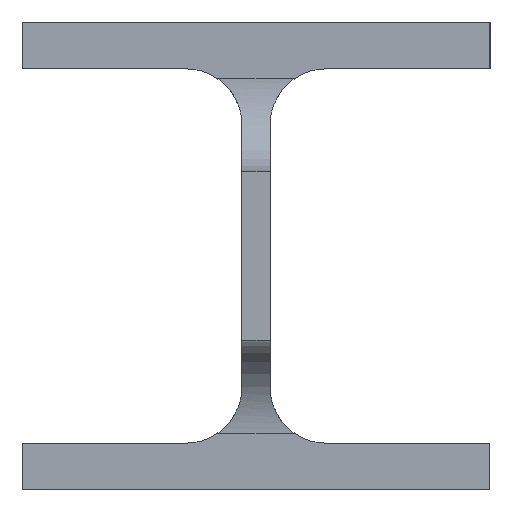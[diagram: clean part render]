
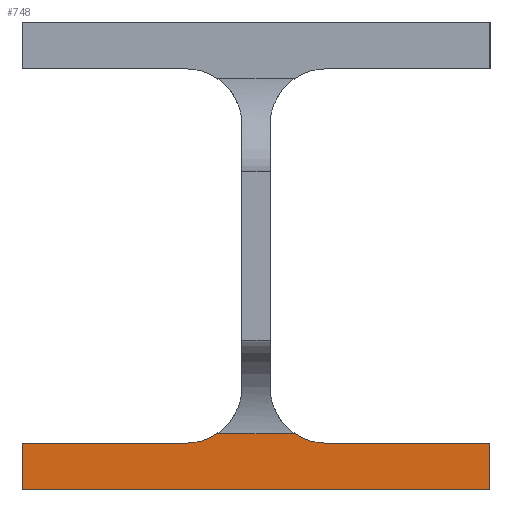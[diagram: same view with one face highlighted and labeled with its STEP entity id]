
A CAD part, left-side view. The second image highlights one B-rep face of the part: STEP entity #748.
In plain terms, the highlighted planar face has unit normal (-1, 0, 0).
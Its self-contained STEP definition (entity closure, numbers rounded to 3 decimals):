
#19 = VECTOR ( 'NONE', #3678, 1000. ) ;
#33 = DIRECTION ( 'NONE',  ( 0., 0., -1. ) ) ;
#73 = CARTESIAN_POINT ( 'NONE',  ( 7052., 2300., 4080. ) ) ;
#113 = CARTESIAN_POINT ( 'NONE',  ( 7052., 2365., 4090. ) ) ;
#243 = EDGE_CURVE ( 'NONE', #1096, #3258, #2074, .T. ) ;
#260 = VECTOR ( 'NONE', #3815, 1000. ) ;
#315 = ORIENTED_EDGE ( 'NONE', *, *, #243, .T. ) ;
#317 = DIRECTION ( 'NONE',  ( 1., 0., 0. ) ) ;
#320 = VERTEX_POINT ( 'NONE', #1494 ) ;
#353 = ORIENTED_EDGE ( 'NONE', *, *, #1870, .T. ) ;
#375 = LINE ( 'NONE', #73, #1260 ) ;
#388 = VECTOR ( 'NONE', #1973, 1000. ) ;
#407 = LINE ( 'NONE', #453, #1003 ) ;
#426 = VERTEX_POINT ( 'NONE', #1148 ) ;
#453 = CARTESIAN_POINT ( 'NONE',  ( 7052., 2400., 4080. ) ) ;
#496 = ORIENTED_EDGE ( 'NONE', *, *, #3018, .T. ) ;
#594 = FACE_OUTER_BOUND ( 'NONE', #3672, .T. ) ;
#625 = CARTESIAN_POINT ( 'NONE',  ( 7052., 2335., 4102. ) ) ;
#698 = EDGE_CURVE ( 'NONE', #426, #1096, #3491, .T. ) ;
#748 = ADVANCED_FACE ( 'NONE', ( #594 ), #3834, .T. ) ;
#802 = CARTESIAN_POINT ( 'NONE',  ( 7052., 2365., 4102. ) ) ;
#807 = CARTESIAN_POINT ( 'NONE',  ( 7052., 2300., 4090. ) ) ;
#892 = CARTESIAN_POINT ( 'NONE',  ( 7052., 2341.633, 4092. ) ) ;
#913 = LINE ( 'NONE', #2707, #1382 ) ;
#968 = LINE ( 'NONE', #2187, #19 ) ;
#1003 = VECTOR ( 'NONE', #2792, 1000. ) ;
#1035 = DIRECTION ( 'NONE',  ( 1., 0., 0. ) ) ;
#1096 = VERTEX_POINT ( 'NONE', #3548 ) ;
#1148 = CARTESIAN_POINT ( 'NONE',  ( 7052., 2300., 4090. ) ) ;
#1160 = VERTEX_POINT ( 'NONE', #1378 ) ;
#1260 = VECTOR ( 'NONE', #2424, 1000. ) ;
#1378 = CARTESIAN_POINT ( 'NONE',  ( 7052., 2300., 4080. ) ) ;
#1382 = VECTOR ( 'NONE', #33, 1000. ) ;
#1459 = VERTEX_POINT ( 'NONE', #1557 ) ;
#1494 = CARTESIAN_POINT ( 'NONE',  ( 7052., 2400., 4090. ) ) ;
#1503 = DIRECTION ( 'NONE',  ( 0., 0., 1. ) ) ;
#1557 = CARTESIAN_POINT ( 'NONE',  ( 7052., 2358.367, 4092. ) ) ;
#1617 = ORIENTED_EDGE ( 'NONE', *, *, #1843, .T. ) ;
#1634 = AXIS2_PLACEMENT_3D ( 'NONE', #2942, #3853, #2053 ) ;
#1708 = VERTEX_POINT ( 'NONE', #113 ) ;
#1843 = EDGE_CURVE ( 'NONE', #1160, #426, #375, .T. ) ;
#1870 = EDGE_CURVE ( 'NONE', #320, #3732, #913, .T. ) ;
#1973 = DIRECTION ( 'NONE',  ( 0., 1., 0. ) ) ;
#2011 = CARTESIAN_POINT ( 'NONE',  ( 7052., 1900., 4092. ) ) ;
#2015 = ORIENTED_EDGE ( 'NONE', *, *, #2679, .T. ) ;
#2053 = DIRECTION ( 'NONE',  ( 0., 0., 1. ) ) ;
#2074 = CIRCLE ( 'NONE', #3257, 12. ) ;
#2187 = CARTESIAN_POINT ( 'NONE',  ( 7052., 2365., 4090. ) ) ;
#2424 = DIRECTION ( 'NONE',  ( 0., 0., 1. ) ) ;
#2679 = EDGE_CURVE ( 'NONE', #1708, #320, #968, .T. ) ;
#2698 = AXIS2_PLACEMENT_3D ( 'NONE', #802, #1035, #3434 ) ;
#2707 = CARTESIAN_POINT ( 'NONE',  ( 7052., 2400., 4090. ) ) ;
#2769 = CIRCLE ( 'NONE', #2698, 12. ) ;
#2792 = DIRECTION ( 'NONE',  ( 0., -1., 0. ) ) ;
#2794 = EDGE_CURVE ( 'NONE', #1459, #1708, #2769, .T. ) ;
#2803 = ORIENTED_EDGE ( 'NONE', *, *, #698, .T. ) ;
#2809 = ORIENTED_EDGE ( 'NONE', *, *, #2821, .T. ) ;
#2821 = EDGE_CURVE ( 'NONE', #3258, #1459, #2920, .T. ) ;
#2920 = LINE ( 'NONE', #2011, #388 ) ;
#2942 = CARTESIAN_POINT ( 'NONE',  ( 7052., 1900., 4090. ) ) ;
#3018 = EDGE_CURVE ( 'NONE', #3732, #1160, #407, .T. ) ;
#3103 = CARTESIAN_POINT ( 'NONE',  ( 7052., 2400., 4080. ) ) ;
#3257 = AXIS2_PLACEMENT_3D ( 'NONE', #625, #317, #1503 ) ;
#3258 = VERTEX_POINT ( 'NONE', #892 ) ;
#3434 = DIRECTION ( 'NONE',  ( 0., 0., 1. ) ) ;
#3491 = LINE ( 'NONE', #807, #260 ) ;
#3548 = CARTESIAN_POINT ( 'NONE',  ( 7052., 2335., 4090. ) ) ;
#3628 = ORIENTED_EDGE ( 'NONE', *, *, #2794, .T. ) ;
#3672 = EDGE_LOOP ( 'NONE', ( #3628, #2015, #353, #496, #1617, #2803, #315, #2809 ) ) ;
#3678 = DIRECTION ( 'NONE',  ( 0., 1., 0. ) ) ;
#3732 = VERTEX_POINT ( 'NONE', #3103 ) ;
#3815 = DIRECTION ( 'NONE',  ( 0., 1., 0. ) ) ;
#3834 = PLANE ( 'NONE',  #1634 ) ;
#3853 = DIRECTION ( 'NONE',  ( -1., 0., 0. ) ) ;
